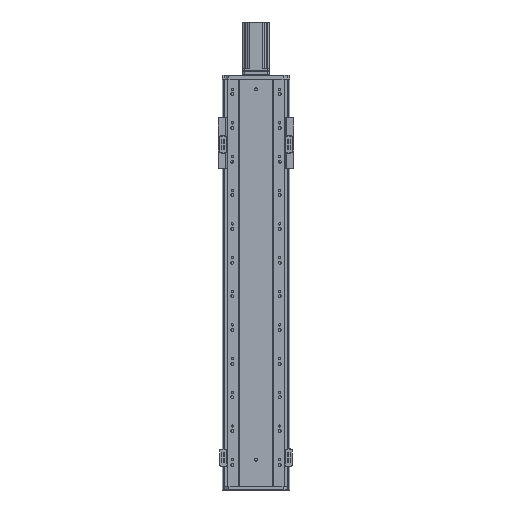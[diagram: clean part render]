
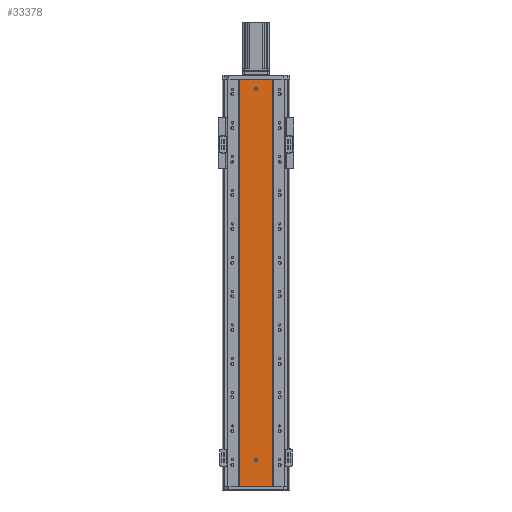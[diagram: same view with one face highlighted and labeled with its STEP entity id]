
A CAD part, front view. The second image highlights one B-rep face of the part: STEP entity #33378.
In plain terms, the highlighted planar face has unit normal (0, -1, 0).
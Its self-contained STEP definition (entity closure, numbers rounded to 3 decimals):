
#205 = CARTESIAN_POINT ( 'NONE',  ( 136.47, 79.476, 84. ) ) ;
#209 = CARTESIAN_POINT ( 'NONE',  ( 136.47, 79.476, 1184. ) ) ;
#212 = CARTESIAN_POINT ( 'NONE',  ( 136.47, 79.476, 1176. ) ) ;
#215 = CARTESIAN_POINT ( 'NONE',  ( 136.47, 79.476, 76. ) ) ;
#457 = CARTESIAN_POINT ( 'NONE',  ( 86.97, 79.476, 0. ) ) ;
#460 = CARTESIAN_POINT ( 'NONE',  ( 185.97, 79.476, 1210. ) ) ;
#473 = CARTESIAN_POINT ( 'NONE',  ( 86.97, 79.476, 1210. ) ) ;
#482 = CARTESIAN_POINT ( 'NONE',  ( 185.97, 79.476, 0. ) ) ;
#9045 = B_SPLINE_CURVE_WITH_KNOTS ( 'NONE', 3,
 ( #30273, #30239, #30247, #30267 ),
 .UNSPECIFIED., .F., .F.,
 ( 4, 4 ),
 ( 0., 1. ),
 .UNSPECIFIED. ) ;
#9132 = B_SPLINE_CURVE_WITH_KNOTS ( 'NONE', 3,
 ( #30282, #30263, #30277, #30283 ),
 .UNSPECIFIED., .F., .F.,
 ( 4, 4 ),
 ( 0., 1. ),
 .UNSPECIFIED. ) ;
#10305 = ORIENTED_EDGE ( 'NONE', *, *, #37555, .T. ) ;
#10308 = ORIENTED_EDGE ( 'NONE', *, *, #36283, .F. ) ;
#10310 = ORIENTED_EDGE ( 'NONE', *, *, #37542, .T. ) ;
#10317 = ORIENTED_EDGE ( 'NONE', *, *, #36193, .F. ) ;
#10328 = ORIENTED_EDGE ( 'NONE', *, *, #37541, .F. ) ;
#10339 = ORIENTED_EDGE ( 'NONE', *, *, #37543, .F. ) ;
#10354 = ORIENTED_EDGE ( 'NONE', *, *, #37556, .F. ) ;
#10360 = ORIENTED_EDGE ( 'NONE', *, *, #37545, .F. ) ;
#11707 = CARTESIAN_POINT ( 'NONE',  ( 0., 79.476, 1210. ) ) ;
#11743 = DIRECTION ( 'NONE',  ( 0., 0., 1. ) ) ;
#11749 = DIRECTION ( 'NONE',  ( 0., 1., 0. ) ) ;
#11755 = PLANE ( 'NONE',  #33818 ) ;
#12380 = VERTEX_POINT ( 'NONE', #215 ) ;
#12411 = VERTEX_POINT ( 'NONE', #209 ) ;
#12416 = VERTEX_POINT ( 'NONE', #205 ) ;
#12418 = VERTEX_POINT ( 'NONE', #212 ) ;
#13470 = AXIS2_PLACEMENT_3D ( 'NONE', #30264, #30262, #30270 ) ;
#13471 = AXIS2_PLACEMENT_3D ( 'NONE', #30274, #30246, #30276 ) ;
#19828 = VERTEX_POINT ( 'NONE', #473 ) ;
#19840 = VERTEX_POINT ( 'NONE', #482 ) ;
#19863 = VERTEX_POINT ( 'NONE', #460 ) ;
#19868 = VERTEX_POINT ( 'NONE', #457 ) ;
#22642 = DIRECTION ( 'NONE',  ( 0., -1., 0. ) ) ;
#22654 = DIRECTION ( 'NONE',  ( 0., 0., -1. ) ) ;
#22657 = CARTESIAN_POINT ( 'NONE',  ( 136.47, 79.476, 80. ) ) ;
#23412 = EDGE_LOOP ( 'NONE', ( #10339, #10308 ) ) ;
#23413 = EDGE_LOOP ( 'NONE', ( #10360, #10317 ) ) ;
#23446 = EDGE_LOOP ( 'NONE', ( #10305, #10328, #10354, #10310 ) ) ;
#27743 = CARTESIAN_POINT ( 'NONE',  ( 136.47, 79.476, 1180. ) ) ;
#27929 = DIRECTION ( 'NONE',  ( 0., -1., 0. ) ) ;
#28184 = DIRECTION ( 'NONE',  ( 0., 0., -1. ) ) ;
#30239 = CARTESIAN_POINT ( 'NONE',  ( 86.97, 79.476, 806.667 ) ) ;
#30246 = DIRECTION ( 'NONE',  ( 0., -1., 0. ) ) ;
#30247 = CARTESIAN_POINT ( 'NONE',  ( 86.97, 79.476, 403.333 ) ) ;
#30257 = CARTESIAN_POINT ( 'NONE',  ( 0., 79.476, 0. ) ) ;
#30262 = DIRECTION ( 'NONE',  ( 0., -1., 0. ) ) ;
#30263 = CARTESIAN_POINT ( 'NONE',  ( 185.97, 79.476, 806.667 ) ) ;
#30264 = CARTESIAN_POINT ( 'NONE',  ( 136.47, 79.476, 80. ) ) ;
#30267 = CARTESIAN_POINT ( 'NONE',  ( 86.97, 79.476, 0. ) ) ;
#30270 = DIRECTION ( 'NONE',  ( 0., 0., -1. ) ) ;
#30273 = CARTESIAN_POINT ( 'NONE',  ( 86.97, 79.476, 1210. ) ) ;
#30274 = CARTESIAN_POINT ( 'NONE',  ( 136.47, 79.476, 1180. ) ) ;
#30276 = DIRECTION ( 'NONE',  ( 0., 0., -1. ) ) ;
#30277 = CARTESIAN_POINT ( 'NONE',  ( 185.97, 79.476, 403.333 ) ) ;
#30282 = CARTESIAN_POINT ( 'NONE',  ( 185.97, 79.476, 1210. ) ) ;
#30283 = CARTESIAN_POINT ( 'NONE',  ( 185.97, 79.476, 0. ) ) ;
#30289 = DIRECTION ( 'NONE',  ( 1., 0., 0. ) ) ;
#30296 = DIRECTION ( 'NONE',  ( 1., 0., 0. ) ) ;
#30320 = CARTESIAN_POINT ( 'NONE',  ( 0., 79.476, 1210. ) ) ;
#33378 = ADVANCED_FACE ( 'NONE', ( #39910, #39874, #39887 ), #11755, .F. ) ;
#33818 = AXIS2_PLACEMENT_3D ( 'NONE', #11707, #11749, #11743 ) ;
#35403 = AXIS2_PLACEMENT_3D ( 'NONE', #27743, #27929, #28184 ) ;
#35521 = AXIS2_PLACEMENT_3D ( 'NONE', #22657, #22642, #22654 ) ;
#36193 = EDGE_CURVE ( 'NONE', #12411, #12418, #41749, .T. ) ;
#36283 = EDGE_CURVE ( 'NONE', #12416, #12380, #41118, .T. ) ;
#37541 = EDGE_CURVE ( 'NONE', #19863, #19840, #9132, .T. ) ;
#37542 = EDGE_CURVE ( 'NONE', #19828, #19868, #9045, .T. ) ;
#37543 = EDGE_CURVE ( 'NONE', #12380, #12416, #44966, .T. ) ;
#37545 = EDGE_CURVE ( 'NONE', #12418, #12411, #45006, .T. ) ;
#37555 = EDGE_CURVE ( 'NONE', #19868, #19840, #45038, .T. ) ;
#37556 = EDGE_CURVE ( 'NONE', #19828, #19863, #45031, .T. ) ;
#39874 = FACE_BOUND ( 'NONE', #23412, .T. ) ;
#39887 = FACE_OUTER_BOUND ( 'NONE', #23446, .T. ) ;
#39910 = FACE_BOUND ( 'NONE', #23413, .T. ) ;
#41118 = CIRCLE ( 'NONE', #35521, 4. ) ;
#41749 = CIRCLE ( 'NONE', #35403, 4. ) ;
#44966 = CIRCLE ( 'NONE', #13470, 4. ) ;
#45006 = CIRCLE ( 'NONE', #13471, 4. ) ;
#45031 = LINE ( 'NONE', #30320, #45073 ) ;
#45038 = LINE ( 'NONE', #30257, #45052 ) ;
#45052 = VECTOR ( 'NONE', #30296, 1000. ) ;
#45073 = VECTOR ( 'NONE', #30289, 1000. ) ;
